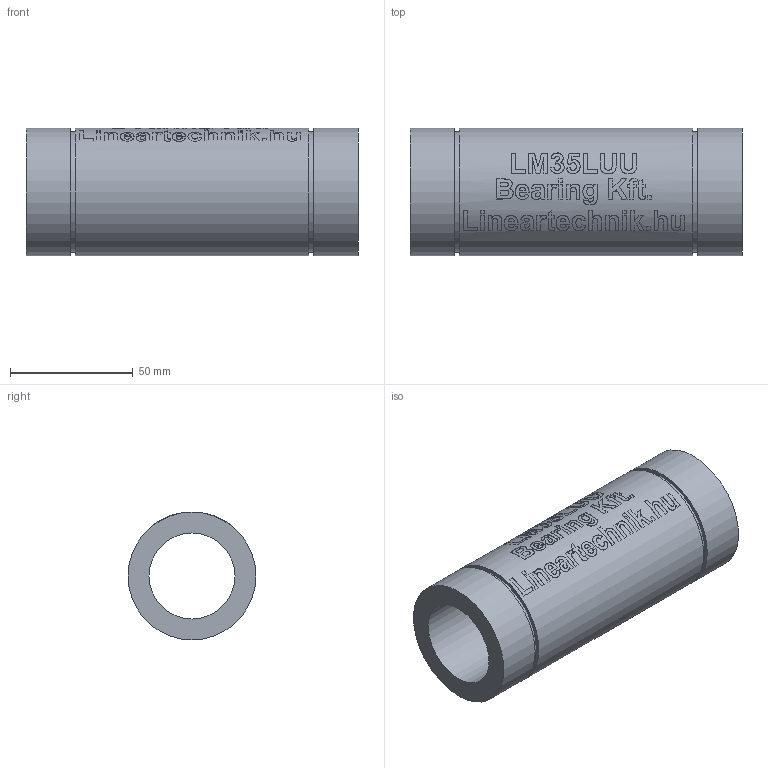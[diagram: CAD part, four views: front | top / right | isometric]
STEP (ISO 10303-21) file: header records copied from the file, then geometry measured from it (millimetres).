
FILE_DESCRIPTION(/* description */ (''),/* implementation_level */ '2;1');
FILE_NAME(/* name */ 'LM35LUU',/* time_stamp */ '2019-05-16T09:38:45+02:00',/* author */ ('VĂ©gh MĂˇtĂ©'),/* organization */ ('Bearing Kft'),/* preprocessor_version */ 'ST-DEVELOPER v16.7',/* originating_system */ 'DEX',/* authorisation */ $);
FILE_SCHEMA (('AUTOMOTIVE_DESIGN {1 0 10303 214 3 1 1}'));
Length unit declared in the file: millimetre
Products named in the file (1): LM35LUU
Bounding box: 135 x 52 x 52 mm (x, y, z)
Volume: 155739.9 mm3; surface area: 40243.2 mm2
Topology: 1 solids, 1 shells, 314 faces, 821 edges, 548 vertices
Faces by surface type: plane 160, bspline 101, cylinder 53
Full cylindrical faces by diameter (mm): 35 x1, 49 x2, 52 x3
Entity records: 23776 total; most frequent: CARTESIAN_POINT 16840, ORIENTED_EDGE 1552, DIRECTION 1134, EDGE_CURVE 776, VERTEX_POINT 522, LINE 422, VECTOR 422, EDGE_LOOP 370
